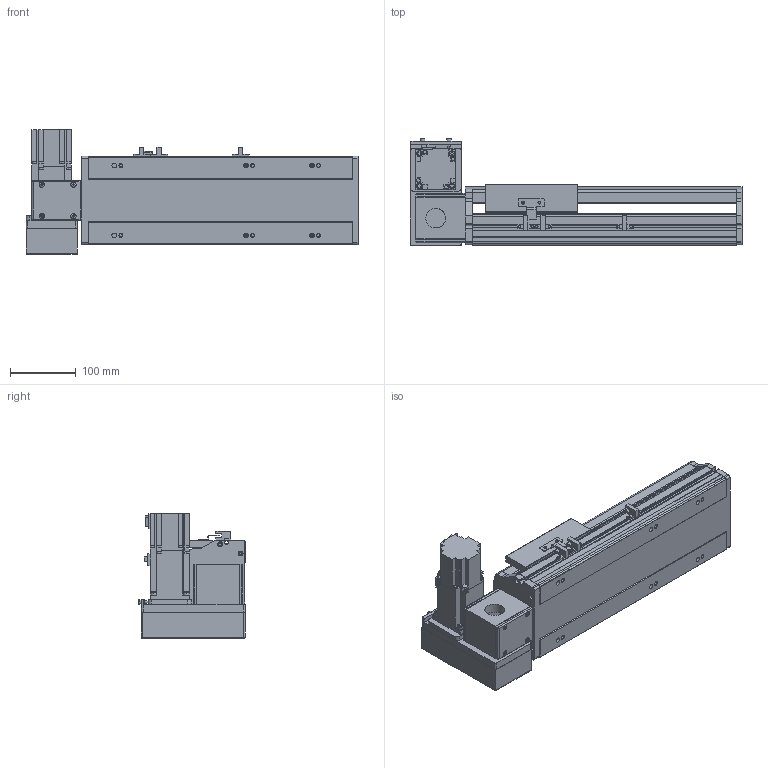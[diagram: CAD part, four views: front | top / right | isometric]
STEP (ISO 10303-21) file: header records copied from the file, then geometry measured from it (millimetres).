
FILE_DESCRIPTION(/* description */ ('STEP AP214'),/* implementation_level */ '2;1');
FILE_NAME(/* name */ 'PBS140S-P40-S150-LU-T40-C1-N(0)',/* time_stamp */ '2022-06-09T02:33:04+02:00',/* author */ ('License CC BY-ND 4.0'),/* organization */ ('CADENAS'),/* preprocessor_version */ 'ST-DEVELOPER v18.102',/* originating_system */ 'PARTsolutions',/* authorisation */ ' ');
FILE_SCHEMA (('AUTOMOTIVE_DESIGN {1 0 10303 214 3 1 1}'));
Length unit declared in the file: millimetre
Products named in the file (7): PBS140S-P40-S150-LU-T40-C1-N(0); PBS140S_sensor; PBS140S_plant; PBS140S_sliser; T40-p1; PBS140ST-LU_motors; PBS140S-S150()_body
Assembly tree (8 placements, depth 2):
  PBS140S-P40-S150-LU-T40-C1-N(0)
    PBS140S_sensor  x3
    PBS140S_plant
    PBS140S_sliser
    T40-p1
    PBS140ST-LU_motors
    PBS140S-S150()_body
Bounding box: 504 x 162.5 x 189.7 mm (x, y, z)
Volume: 3168301.3 mm3; surface area: 585912.2 mm2
Topology: 8 solids, 8 shells, 1019 faces, 2711 edges, 1775 vertices
Faces by surface type: plane 672, cylinder 305, cone 32, sphere 8, torus 2
Full cylindrical faces by diameter (mm): 3.242 x4, 4 x2, 4.134 x4, 4.4 x8, 4.5 x2, 4.8 x4, 4.917 x14, 5.5 x7, 6 x2, 7 x8, 7.5 x8, 8 x12, 8.5 x4, 10.5 x6, 14 x1, 30 x2, 50 x2
Entity records: 29206 total; most frequent: CARTESIAN_POINT 5256, DIRECTION 4998, ORIENTED_EDGE 4762, EDGE_CURVE 2381, AXIS2_PLACEMENT_3D 1709, VERTEX_POINT 1633, LINE 1580, VECTOR 1580
